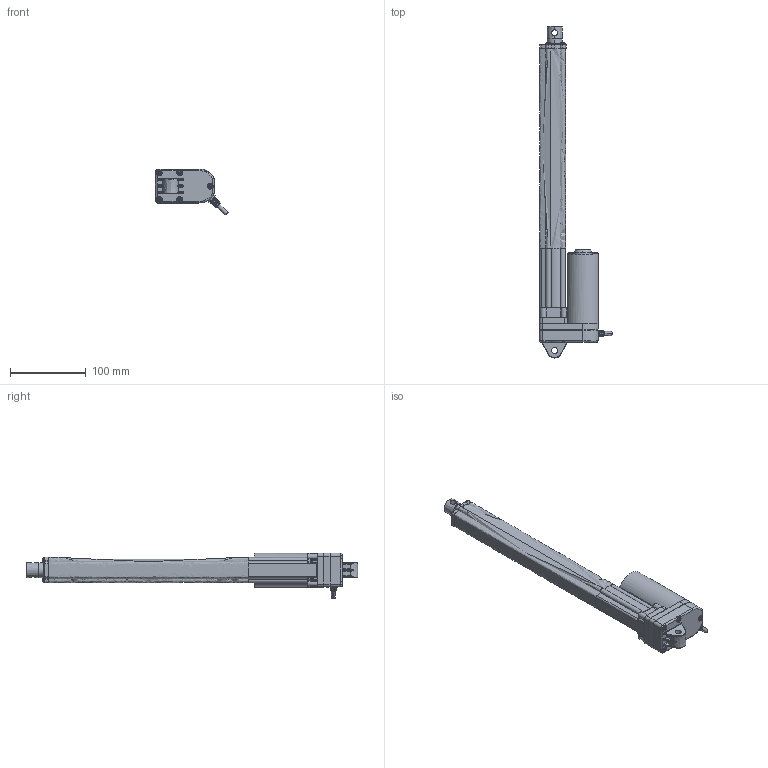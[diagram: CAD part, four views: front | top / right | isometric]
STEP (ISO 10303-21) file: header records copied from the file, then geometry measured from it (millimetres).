
FILE_DESCRIPTION(/* description */ (''),/* implementation_level */ '2;1');
FILE_NAME(/* name */ 'HBA9',/* time_stamp */ '2021-05-25T15:55:37+08:00',/* author */ (''),/* organization */ (''),/* preprocessor_version */ 'ST-DEVELOPER v16.5',/* originating_system */ '',/* authorisation */ '');
FILE_SCHEMA (('AUTOMOTIVE_DESIGN'));
Length unit declared in the file: millimetre
Products named in the file (1): Document
Bounding box: 96.57 x 439 x 60.73 mm (x, y, z)
Surface area: 80112.9 mm2
Topology: 1 solids, 2 shells, 701 faces, 1814 edges, 1116 vertices
Faces by surface type: bspline 453, plane 248
Entity records: 31026 total; most frequent: CARTESIAN_POINT 20427, ORIENTED_EDGE 3572, EDGE_CURVE 1793, B_SPLINE_CURVE_WITH_KNOTS 1136, VERTEX_POINT 1116, EDGE_LOOP 740, ADVANCED_FACE 701, FACE_OUTER_BOUND 701
